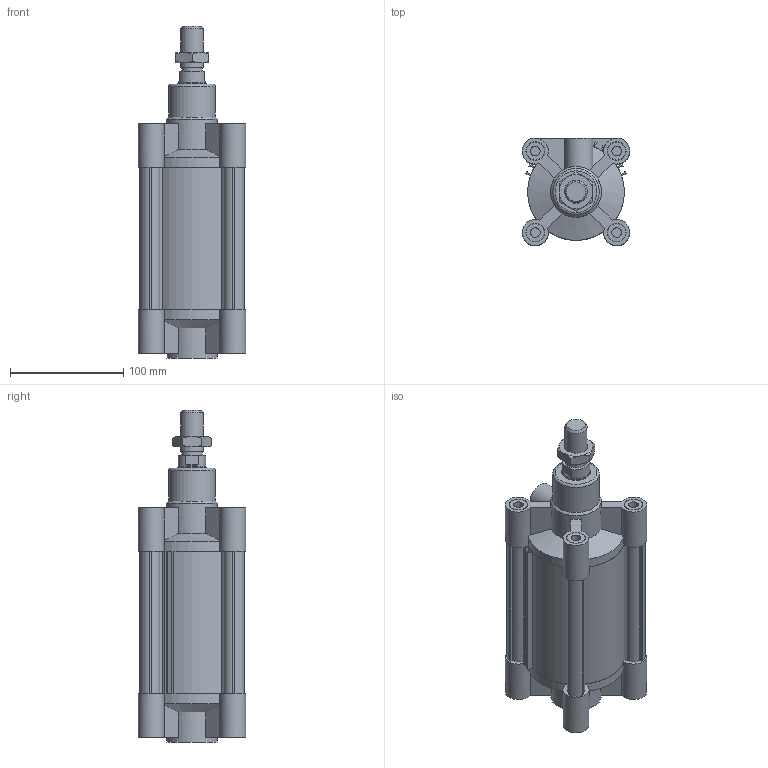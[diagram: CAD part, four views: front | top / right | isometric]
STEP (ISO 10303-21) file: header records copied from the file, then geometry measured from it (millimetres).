
FILE_DESCRIPTION((''),'2;1');
FILE_NAME('I:\Area Tecnica\Disegni\VARIE-3D\Componenti\ECOLIGHT\139#.##_0000_01\stp\139#_80_0075_01.iam.stp','2012-01-28T08:02:46',(''),(''),'Autodesk Inventor 2012','Autodesk Inventor 2012','');
FILE_SCHEMA(('AUTOMOTIVE_DESIGN { 1 0 10303 214 1 1 1 1 }'));
Length unit declared in the file: millimetre
Products named in the file (6): 139#_80_0075_01; CPL080_004-75; CPL080-001-01; CPL080-002-01; CPL_80_0075; 1320_80_18F
Assembly tree (5 placements, depth 2):
  139#_80_0075_01
    CPL080_004-75
    CPL080-001-01
    CPL080-002-01
    CPL_80_0075
    1320_80_18F
Bounding box: 95 x 95 x 293.5 mm (x, y, z)
Volume: 959653.9 mm3; surface area: 237700.7 mm2
Topology: 5 solids, 5 shells, 264 faces, 648 edges, 426 vertices
Faces by surface type: plane 154, cylinder 83, cone 26, torus 1
Full cylindrical faces by diameter (mm): 8.5 x8, 12 x2, 15.2 x2, 16 x8, 16.5 x8, 18 x1, 18.5 x1, 20 x1, 24.5 x1, 25 x2, 41 x1, 45 x2, 80 x4
Entity records: 7874 total; most frequent: CARTESIAN_POINT 1483, DIRECTION 1288, ORIENTED_EDGE 1186, EDGE_CURVE 593, AXIS2_PLACEMENT_3D 476, VERTEX_POINT 419, EDGE_LOOP 358, VECTOR 336
